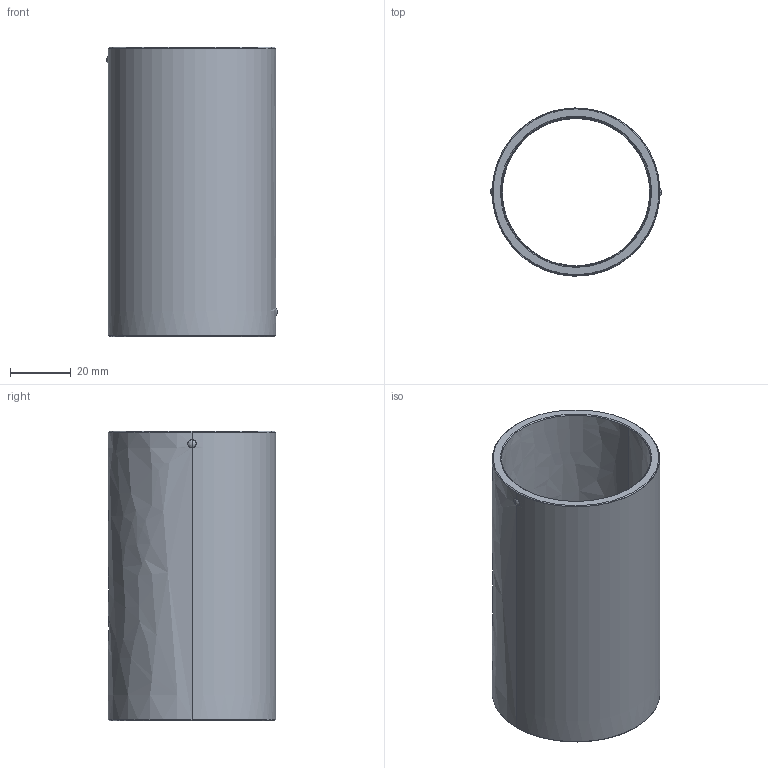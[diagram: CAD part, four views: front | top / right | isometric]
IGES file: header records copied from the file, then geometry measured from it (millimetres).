
Start section: START RECORD GO HERE.
Global section: file name: 730-48x95.igs; native system: DASSAULT SYSTEMES CATIA V5 R20 - www.3ds.com; preprocessor: CATIA Version 5 Release 20 ; author: Utente; organization: NB04-ASUS; date: 20210107.170547; units: millimetre
Bounding box: 55.99 x 55 x 95 mm (x, y, z)
Surface area: 32565.3 mm2 (no closed solid volume)
Topology: 0 solids, 0 shells, 44 faces, 240 edges, 240 vertices
Faces by surface type: revolution 36, plane 8
